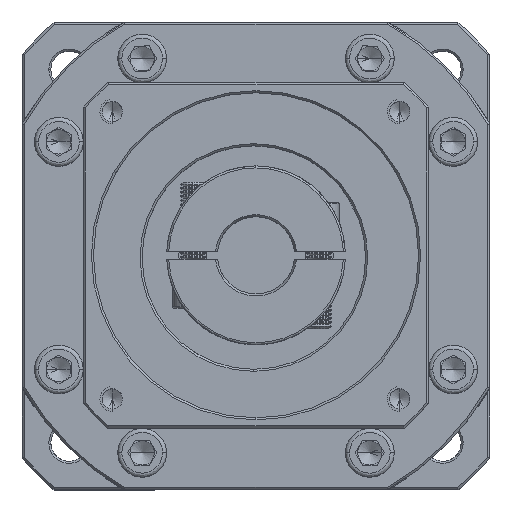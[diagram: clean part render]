
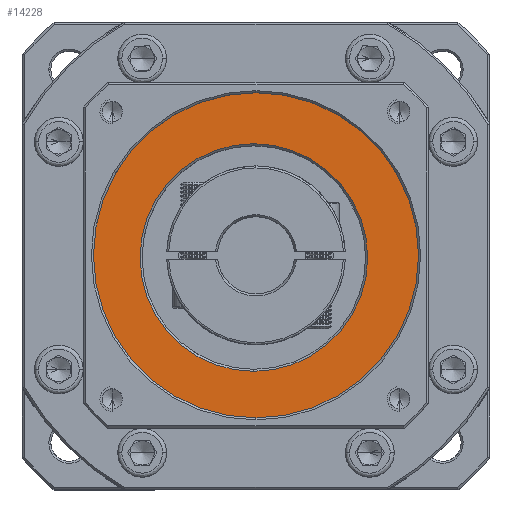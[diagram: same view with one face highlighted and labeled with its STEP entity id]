
A CAD part, top view. The second image highlights one B-rep face of the part: STEP entity #14228.
In plain terms, the highlighted planar face has unit normal (0, 0, 1).
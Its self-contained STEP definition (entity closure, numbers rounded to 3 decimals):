
#4417 = EDGE_CURVE ( 'NONE', #70621, #107780, #49957, .T. ) ;
#10066 = DIRECTION ( 'NONE',  ( 0., 1., 0. ) ) ;
#14228 = ADVANCED_FACE ( 'NONE', ( #70620, #137459 ), #27292, .T. ) ;
#17450 = CARTESIAN_POINT ( 'NONE',  ( 68.649, 48.125, 1.933 ) ) ;
#20227 = CIRCLE ( 'NONE', #135607, 40. ) ;
#23882 = CARTESIAN_POINT ( 'NONE',  ( 69.184, 76.666, 1.933 ) ) ;
#27292 = PLANE ( 'NONE',  #83165 ) ;
#29713 = DIRECTION ( 'NONE',  ( 0., 1., 0. ) ) ;
#36614 = DIRECTION ( 'NONE',  ( 0., 1., 0. ) ) ;
#40512 = DIRECTION ( 'NONE',  ( 0., 1., 0. ) ) ;
#43532 = EDGE_CURVE ( 'NONE', #110930, #127129, #46205, .T. ) ;
#43959 = ORIENTED_EDGE ( 'NONE', *, *, #117847, .T. ) ;
#46205 = CIRCLE ( 'NONE', #123525, 40. ) ;
#48890 = DIRECTION ( 'NONE',  ( 0., 0., -1. ) ) ;
#49957 = CIRCLE ( 'NONE', #99019, 28. ) ;
#50911 = ORIENTED_EDGE ( 'NONE', *, *, #43532, .T. ) ;
#55263 = CARTESIAN_POINT ( 'NONE',  ( 68.649, 104.125, 1.933 ) ) ;
#58048 = ORIENTED_EDGE ( 'NONE', *, *, #4417, .T. ) ;
#59428 = CARTESIAN_POINT ( 'NONE',  ( 69.184, 76.666, 1.933 ) ) ;
#61329 = EDGE_LOOP ( 'NONE', ( #58048, #132246 ) ) ;
#66671 = CARTESIAN_POINT ( 'NONE',  ( 69.184, 116.666, 1.933 ) ) ;
#66901 = AXIS2_PLACEMENT_3D ( 'NONE', #104365, #81516, #40512 ) ;
#69976 = CARTESIAN_POINT ( 'NONE',  ( 68.649, 76.125, 1.933 ) ) ;
#70620 = FACE_OUTER_BOUND ( 'NONE', #80780, .T. ) ;
#70621 = VERTEX_POINT ( 'NONE', #55263 ) ;
#80780 = EDGE_LOOP ( 'NONE', ( #50911, #43959 ) ) ;
#81516 = DIRECTION ( 'NONE',  ( 0., 0., -1. ) ) ;
#82830 = CARTESIAN_POINT ( 'NONE',  ( 69.184, 76.666, 1.933 ) ) ;
#83165 = AXIS2_PLACEMENT_3D ( 'NONE', #59428, #134098, #36614 ) ;
#86274 = CARTESIAN_POINT ( 'NONE',  ( 69.184, 36.666, 1.933 ) ) ;
#87051 = EDGE_CURVE ( 'NONE', #107780, #70621, #128920, .T. ) ;
#89101 = DIRECTION ( 'NONE',  ( 0., 1., 0. ) ) ;
#93526 = DIRECTION ( 'NONE',  ( 0., 0., 1. ) ) ;
#99019 = AXIS2_PLACEMENT_3D ( 'NONE', #69976, #48890, #10066 ) ;
#104365 = CARTESIAN_POINT ( 'NONE',  ( 68.649, 76.125, 1.933 ) ) ;
#107780 = VERTEX_POINT ( 'NONE', #17450 ) ;
#109713 = DIRECTION ( 'NONE',  ( 0., 0., 1. ) ) ;
#110930 = VERTEX_POINT ( 'NONE', #66671 ) ;
#117847 = EDGE_CURVE ( 'NONE', #127129, #110930, #20227, .T. ) ;
#123525 = AXIS2_PLACEMENT_3D ( 'NONE', #23882, #109713, #89101 ) ;
#127129 = VERTEX_POINT ( 'NONE', #86274 ) ;
#128920 = CIRCLE ( 'NONE', #66901, 28. ) ;
#132246 = ORIENTED_EDGE ( 'NONE', *, *, #87051, .T. ) ;
#134098 = DIRECTION ( 'NONE',  ( 0., 0., 1. ) ) ;
#135607 = AXIS2_PLACEMENT_3D ( 'NONE', #82830, #93526, #29713 ) ;
#137459 = FACE_BOUND ( 'NONE', #61329, .T. ) ;
